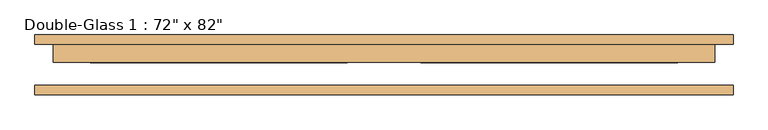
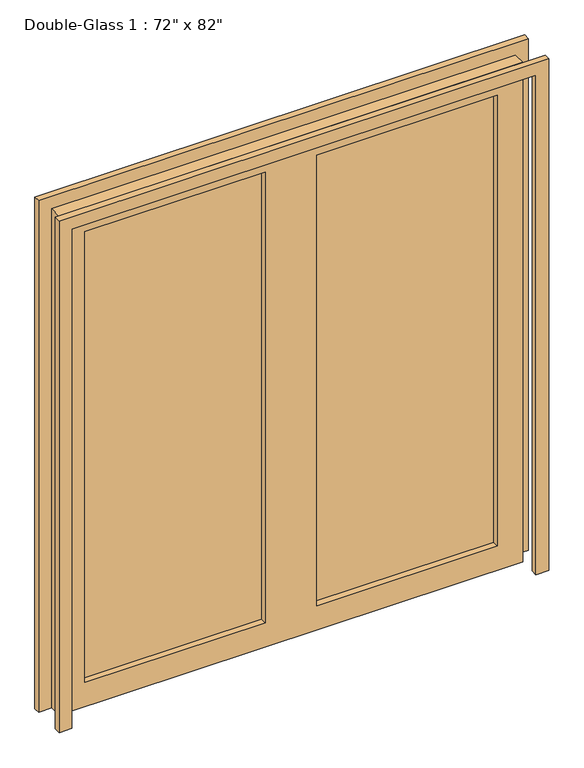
"""IFC4 building model written with IfcOpenShell, lengths in millimetres: door geometry."""

from ifc_helpers import new_model, si_unit, frame, origin, place, context, project, spatial, polyline, outline, extrude, source, transform, mapped, element, save


def door_0a7806e9(model_context):
    return source(origin(), model_context, "Body", "SweptSolid", [
        extrude(outline(polyline([(0.0, 965.2), (2133.6, 965.2), (2133.6, -965.2), (0.0, -965.2), (0.0, -914.4), (2082.8, -914.4), (2082.8, 914.4), (0.0, 914.4), (0.0, 965.2)])), frame((0.0, -80.16875, 0.0), z_axis=(0.0, 1.0, 0.0), x_axis=(0.0, 0.0, 1.0)), (0.0, 0.0, 1.0), 25.4),
        extrude(outline(polyline([(2082.8, 914.4), (0.0, 914.4), (0.0, 965.2), (2133.6, 965.2), (2133.6, -965.2), (0.0, -965.2), (0.0, -914.4), (2082.8, -914.4), (2082.8, 914.4)])), frame((0.0, 59.53125, 0.0), z_axis=(0.0, 1.0, 0.0), x_axis=(0.0, 0.0, 1.0)), (0.0, 0.0, 1.0), 25.4),
        extrude(outline(polyline([(812.8, 34.13125), (101.6, 34.13125), (101.6, 41.275), (812.8, 41.275), (812.8, 34.13125)])), frame((0.0, 0.0, 101.6), z_axis=(0.0, 0.0, 1.0), x_axis=(1.0, 0.0, 0.0)), (0.0, 0.0, 1.0), 1879.6),
        extrude(outline(polyline([(-101.6, 34.13125), (-812.8, 34.13125), (-812.8, 41.275), (-101.6, 41.275), (-101.6, 34.13125)])), frame((0.0, 0.0, 101.6), z_axis=(0.0, 0.0, 1.0), x_axis=(1.0, 0.0, 0.0)), (0.0, 0.0, 1.0), 1879.6),
        extrude(outline(polyline([(2082.8, 914.4), (2082.8, -914.4), (0.0, -914.4), (0.0, 914.4), (2082.8, 914.4)]), holes=[polyline([(1981.2, -101.6), (101.6, -101.6), (101.6, -812.8), (1981.2, -812.8), (1981.2, -101.6)]), polyline([(1981.2, 812.8), (101.6, 812.8), (101.6, 101.6), (1981.2, 101.6), (1981.2, 812.8)])]), frame((0.0, 8.73125, 0.0), z_axis=(0.0, 1.0, 0.0), x_axis=(0.0, 0.0, 1.0)), (0.0, 0.0, 1.0), 50.8),
    ])


if __name__ == "__main__":
    model = new_model("IFC4")
    model_context = context("Model", 3, world=origin())
    ifc_project = project(units=[si_unit("LENGTHUNIT", "METRE", prefix="MILLI")], contexts=[model_context])
    site = spatial("IfcSite", under=ifc_project)
    building = spatial("IfcBuilding", under=site)
    placement = place(None, origin())
    door_shape = door_0a7806e9(model_context)
    element("IfcDoor", 1, ObjectType="Double-Glass 1 : 72\" x 82\"", at=placement, inside=building, context=model_context, shape_type="MappedRepresentation", body=[
        mapped(door_shape, transform((0.0, 0.0, 0.0), x_axis=(1.0, 0.0, 0.0), y_axis=(0.0, 1.0, 0.0), z_axis=(0.0, 0.0, 1.0))),
    ])
    save(model, "model.ifc")
